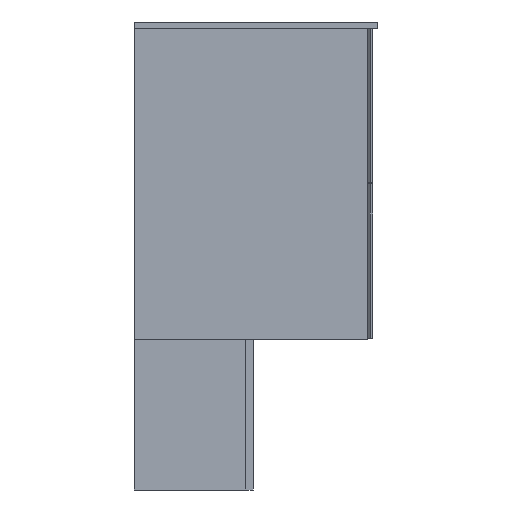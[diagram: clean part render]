
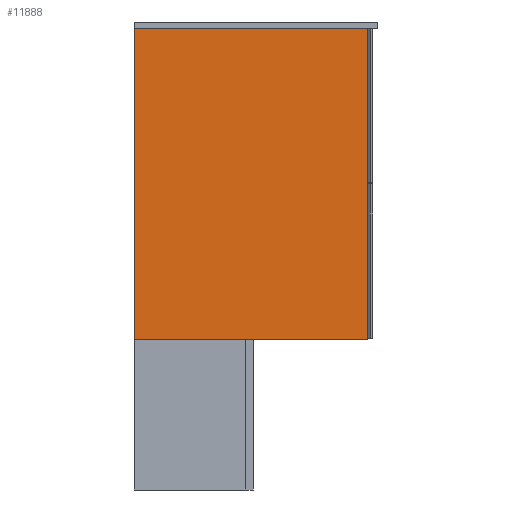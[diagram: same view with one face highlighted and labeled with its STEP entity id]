
A CAD part, left-side view. The second image highlights one B-rep face of the part: STEP entity #11888.
In plain terms, the highlighted planar face has unit normal (-1, 0, 0).
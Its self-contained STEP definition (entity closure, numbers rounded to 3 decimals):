
#13 = EDGE_CURVE ( 'NONE', #3614, #15875, #6937, .T. ) ;
#172 = VECTOR ( 'NONE', #6876, 1000. ) ;
#485 = ORIENTED_EDGE ( 'NONE', *, *, #10716, .F. ) ;
#760 = FACE_OUTER_BOUND ( 'NONE', #4427, .T. ) ;
#808 = ORIENTED_EDGE ( 'NONE', *, *, #8525, .F. ) ;
#1134 = DIRECTION ( 'NONE',  ( 1., 0., 0. ) ) ;
#1475 = DIRECTION ( 'NONE',  ( 0., 1., 0. ) ) ;
#1921 = CARTESIAN_POINT ( 'NONE',  ( 4346.88, -3618.256, 540. ) ) ;
#2629 = LINE ( 'NONE', #14865, #3780 ) ;
#3166 = ORIENTED_EDGE ( 'NONE', *, *, #13, .F. ) ;
#3614 = VERTEX_POINT ( 'NONE', #14526 ) ;
#3676 = DIRECTION ( 'NONE',  ( 0., 0., 1. ) ) ;
#3780 = VECTOR ( 'NONE', #3676, 1000. ) ;
#4427 = EDGE_LOOP ( 'NONE', ( #6060, #485, #808, #3166 ) ) ;
#5855 = AXIS2_PLACEMENT_3D ( 'NONE', #14808, #1134, #15792 ) ;
#5882 = CARTESIAN_POINT ( 'NONE',  ( 4346.88, -3843.256, 270. ) ) ;
#6026 = DIRECTION ( 'NONE',  ( 0., 0., -1. ) ) ;
#6060 = ORIENTED_EDGE ( 'NONE', *, *, #12150, .F. ) ;
#6487 = CARTESIAN_POINT ( 'NONE',  ( 4346.88, -3393.256, -60. ) ) ;
#6876 = DIRECTION ( 'NONE',  ( 0., -1., 0. ) ) ;
#6937 = LINE ( 'NONE', #5882, #13595 ) ;
#7875 = CARTESIAN_POINT ( 'NONE',  ( 4346.88, -3843.256, -60. ) ) ;
#7987 = VERTEX_POINT ( 'NONE', #6487 ) ;
#8364 = VECTOR ( 'NONE', #1475, 1000. ) ;
#8525 = EDGE_CURVE ( 'NONE', #15875, #7987, #14997, .T. ) ;
#10716 = EDGE_CURVE ( 'NONE', #7987, #15868, #2629, .T. ) ;
#11530 = CARTESIAN_POINT ( 'NONE',  ( 4346.88, -3393.256, 540. ) ) ;
#11888 = ADVANCED_FACE ( 'NONE', ( #760 ), #15558, .F. ) ;
#12150 = EDGE_CURVE ( 'NONE', #15868, #3614, #13016, .T. ) ;
#13016 = LINE ( 'NONE', #1921, #172 ) ;
#13595 = VECTOR ( 'NONE', #6026, 1000. ) ;
#13862 = CARTESIAN_POINT ( 'NONE',  ( 4346.88, -3618.256, -60. ) ) ;
#14526 = CARTESIAN_POINT ( 'NONE',  ( 4346.88, -3843.256, 540. ) ) ;
#14808 = CARTESIAN_POINT ( 'NONE',  ( 4346.88, -3618.256, 270. ) ) ;
#14865 = CARTESIAN_POINT ( 'NONE',  ( 4346.88, -3393.256, 270. ) ) ;
#14997 = LINE ( 'NONE', #13862, #8364 ) ;
#15558 = PLANE ( 'NONE',  #5855 ) ;
#15792 = DIRECTION ( 'NONE',  ( 0., 0., -1. ) ) ;
#15868 = VERTEX_POINT ( 'NONE', #11530 ) ;
#15875 = VERTEX_POINT ( 'NONE', #7875 ) ;
